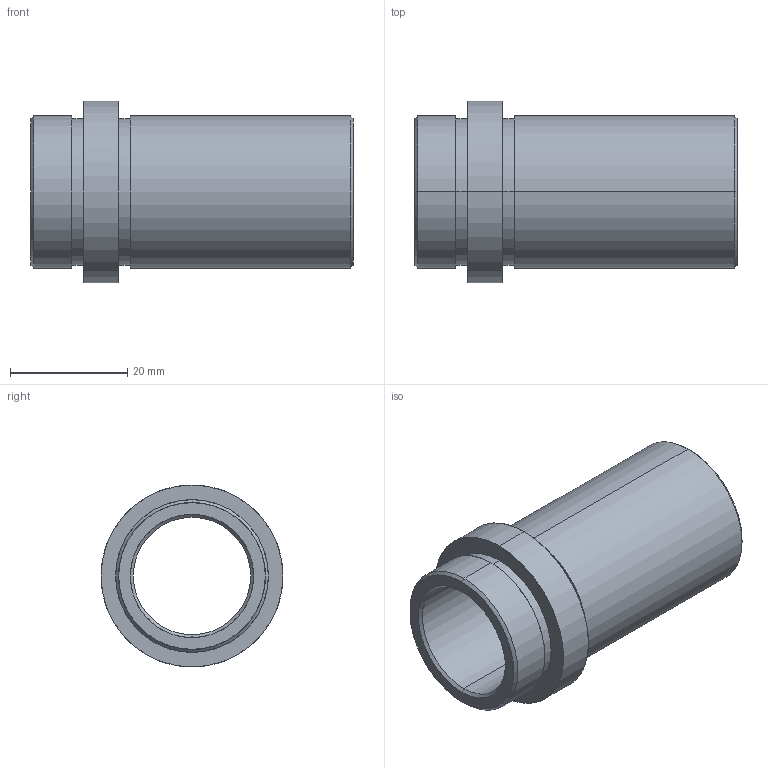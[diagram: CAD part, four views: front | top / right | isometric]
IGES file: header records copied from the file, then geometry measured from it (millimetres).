
Start section: SolidWorks IGES FILE using analytic representation for surfaces
Global section: file name: D:\zzzzz\Delta\D21\20\D21 - 20x46.IGS; native system: SolidWorks 2004 by SolidWorks Corporation; preprocessor: Version 5.3; author: Hkn; date: 080326.191940; units: millimetre
Bounding box: 55 x 31 x 31 mm (x, y, z)
Surface area: 8986.7 mm2 (no closed solid volume)
Topology: 0 solids, 0 shells, 26 faces, 528 edges, 528 vertices
Faces by surface type: revolution 20, bspline 6
